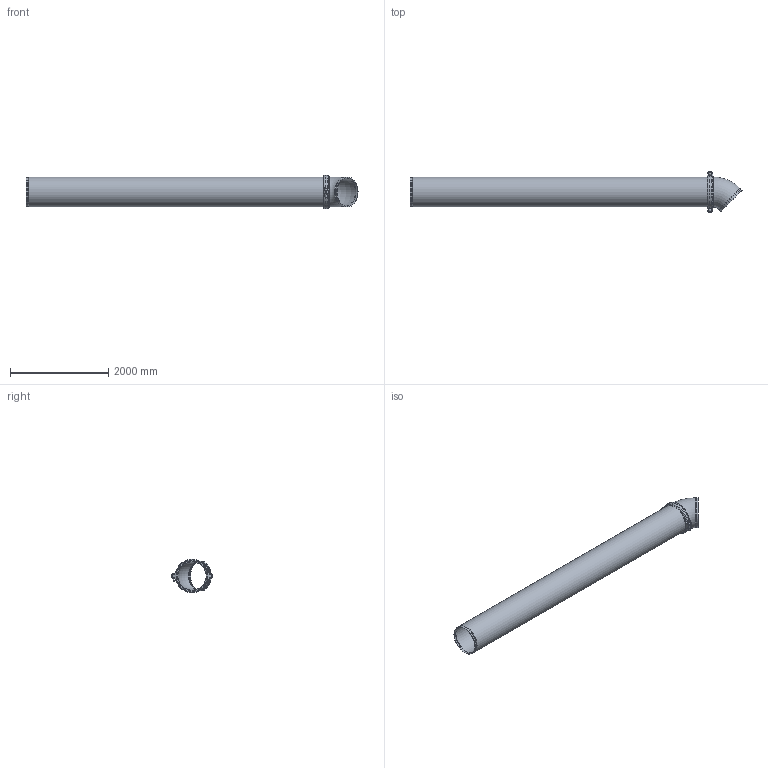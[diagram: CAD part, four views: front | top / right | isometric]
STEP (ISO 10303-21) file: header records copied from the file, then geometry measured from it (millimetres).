
FILE_DESCRIPTION(/* description */ ('VIC AGS LONG RUN FITTING No WR11 (AGS)','CAx-IF Rec.Pracs.---Representation and Presentation of Product Manufacturing Information (PMI)---4.0---2014-10-13'),/* implementation_level */ '2;1');
FILE_NAME(/* name */ 'C:\Users\Vjadhav\AppData\Roaming\Autodesk\ApplicationPlugins\Back Up\Victaulic_AGS_Long Run Fittings_No WR11 (AGS)\Victaulic_AGS_Long Run Fittings_No WR11 (AGS)_24 (600).stp',/* time_stamp */ '2020-10-14T15:37:42+05:00',/* author */ ('Vjadhav'),/* organization */ ('Victaulic'),/* preprocessor_version */ 'ST-DEVELOPER v17.2',/* originating_system */ 'Autodesk Inventor 2019',/* authorisation */ '');
FILE_SCHEMA (('AP242_MANAGED_MODEL_BASED_3D_ENGINEERING_MIM_LF { 1 0 10303 442 1 1 4 }'));
Length unit declared in the file: inch
Products named in the file (4): WR11-24.0; WR10-24.0; W07-24.0; W11-24.0
Assembly tree (3 placements, depth 2):
  WR11-24.0
    WR10-24.0
    W07-24.0
    W11-24.0
Bounding box: 6748.88 x 822.45 x 676.4 mm (x, y, z)
Volume: 131733709.3 mm3; surface area: 25639889.7 mm2
Topology: 3 solids, 5 shells, 119 faces, 334 edges, 237 vertices
Faces by surface type: plane 50, cylinder 41, torus 18, cone 8, sphere 2
Full cylindrical faces by diameter (mm): 28.575 x4, 47.625 x2, 576.072 x2, 584.2 x1, 590.55 x1, 596.9 x4, 609.6 x9
Entity records: 4646 total; most frequent: CARTESIAN_POINT 1081, DIRECTION 745, ORIENTED_EDGE 668, EDGE_CURVE 334, AXIS2_PLACEMENT_3D 301, VERTEX_POINT 237, CIRCLE 171, LINE 143
